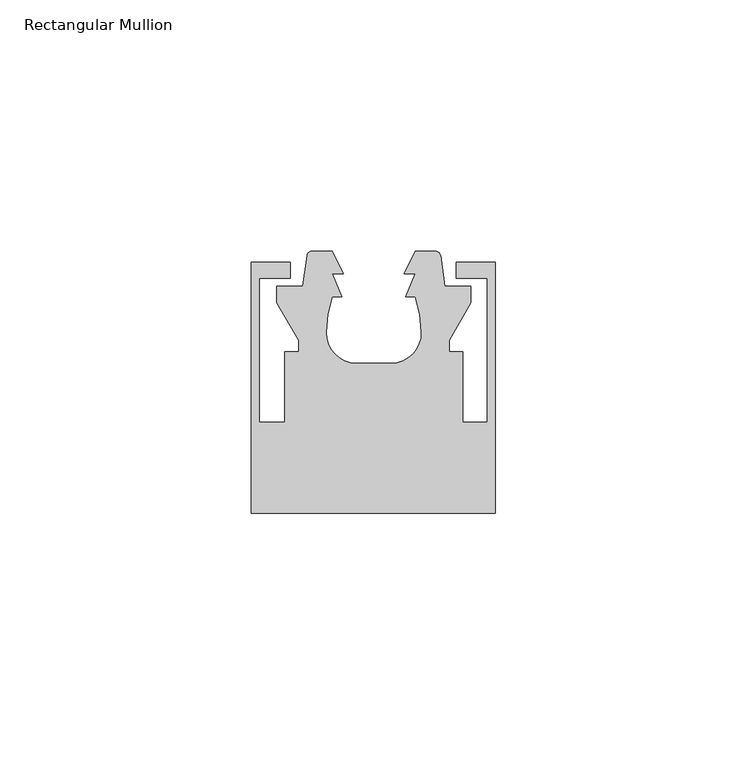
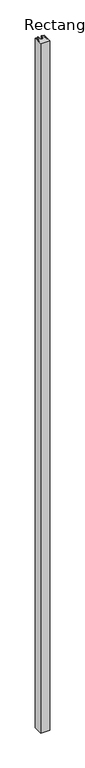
"""IFC4 building model written with IfcOpenShell, lengths in millimetres: member geometry, Rectangular Mullion : Danpal_Airpt."""

from ifc_helpers import new_model, si_unit, point, frame, frame_2d, origin, place, context, project, spatial, polyline, circle_curve, trimmed, segment, composite_curve, outline, extrude, source, transform, mapped, element, save


def rectangular_mullion_012c2512(model_context):
    return source(origin(), model_context, "Body", "SweptSolid", [
        extrude(outline(composite_curve([segment(polyline([(-16.6, -16.4), (-16.6, -19.6), (-22.8, -19.6), (-22.8, -48.2), (-17.7185077, -48.2), (-17.7185077, -34.2), (-14.9766663, -34.2), (-14.9766663, -31.9202845), (-19.2732051, -24.478461), (-19.3, -21.2), (-14.115585, -21.2)]), True, "CONTINUOUS"), segment(trimmed(circle_curve(frame_2d((137.1078499, -38.5534788)), 152.215868), [point((-14.115585, -21.2))], [point((-13.2693482, -14.9660083))], False, "CARTESIAN"), True, "CONTINUOUS"), segment(trimmed(circle_curve(frame_2d((-12.3738214, -15.1064765)), 0.9064765), [point((-13.2693482, -14.9660083))], [point((-12.3738214, -14.2))], False, "CARTESIAN"), True, "CONTINUOUS"), segment(polyline([(-12.3738214, -14.2), (-8.2308667, -14.2), (-6.0782659, -18.7006239), (-8.2858815, -18.7006239), (-6.3614697, -23.2699289), (-8.2778534, -23.2699289)]), True, "CONTINUOUS"), segment(trimmed(circle_curve(frame_2d((16.4332098, -31.142799)), 25.9348941), [point((-8.2778534, -23.2699289))], [point((-9.488241, -30.3078647))], True, "CARTESIAN"), True, "CONTINUOUS"), segment(trimmed(circle_curve(frame_2d((-3.5093751, -30.500445)), 5.9819667), [point((-9.488241, -30.3078647))], [point((-3.5093751, -36.4824117))], True, "CARTESIAN"), True, "CONTINUOUS"), segment(polyline([(-3.5093751, -36.4824117), (3.5093751, -36.4824117)]), True, "CONTINUOUS"), segment(trimmed(circle_curve(frame_2d((3.5093751, -30.500445)), 5.9819667), [point((3.5093751, -36.4824117))], [point((9.488241, -30.3078647))], True, "CARTESIAN"), True, "CONTINUOUS"), segment(trimmed(circle_curve(frame_2d((-16.4332098, -31.142799)), 25.9348941), [point((9.488241, -30.3078647))], [point((8.2778534, -23.2699289))], True, "CARTESIAN"), True, "CONTINUOUS"), segment(polyline([(8.2778534, -23.2699289), (6.3614697, -23.2699289), (8.2858815, -18.7006239), (6.0782659, -18.7006239), (8.2308667, -14.2), (12.2262756, -14.2)]), True, "CONTINUOUS"), segment(trimmed(circle_curve(frame_2d((12.2262756, -15.2788845)), 1.0788845), [point((12.2262756, -14.2))], [point((13.2922905, -15.1127399))], False, "CARTESIAN"), True, "CONTINUOUS"), segment(trimmed(circle_curve(frame_2d((-137.1078499, -38.5534788)), 152.215868), [point((13.2922905, -15.1127399))], [point((14.115585, -21.2))], False, "CARTESIAN"), True, "CONTINUOUS"), segment(polyline([(14.115585, -21.2), (19.3, -21.2), (19.2732051, -24.478461), (14.9766663, -31.9202845), (14.9766663, -34.2), (17.7185077, -34.2), (17.7185077, -48.2), (22.6, -48.2), (22.6, -19.6), (16.4, -19.6), (16.4, -16.4), (24.2, -16.4), (24.2, -66.4), (-24.4, -66.4), (-24.4, -16.4), (-16.6, -16.4)]), True, "CONTINUOUS")], self_intersect=False)), frame((0.0, 0.0, -3817.3608197), z_axis=(0.0, 0.0, 1.0), x_axis=(1.0, 0.0, 0.0)), (0.0, 0.0, 1.0), 3817.3608197),
    ])


if __name__ == "__main__":
    model = new_model("IFC4")
    model_context = context("Model", 3, world=origin())
    ifc_project = project(units=[si_unit("LENGTHUNIT", "METRE", prefix="MILLI")], contexts=[model_context])
    site = spatial("IfcSite", under=ifc_project)
    building = spatial("IfcBuilding", under=site)
    placement = place(None, origin())
    rectangular_mullion_shape = rectangular_mullion_012c2512(model_context)
    element("IfcMember", 1, ObjectType="Rectangular Mullion : Danpal_Airpt", at=placement, inside=building, context=model_context, shape_type="MappedRepresentation", body=[
        mapped(rectangular_mullion_shape, transform((0.0, 0.0, 0.0), x_axis=(1.0, 0.0, 0.0), y_axis=(0.0, 1.0, 0.0), z_axis=(0.0, 0.0, 1.0))),
    ])
    save(model, "model.ifc")
